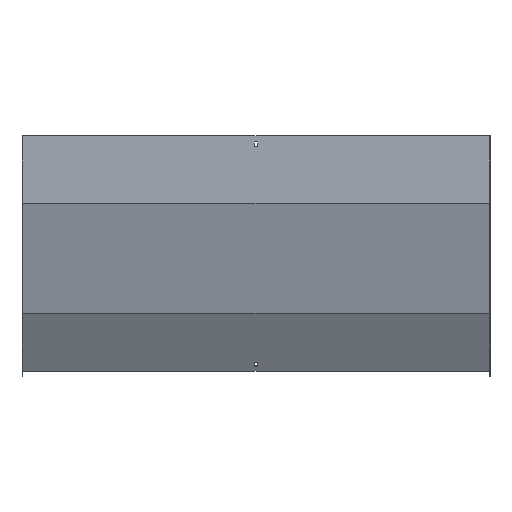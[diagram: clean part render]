
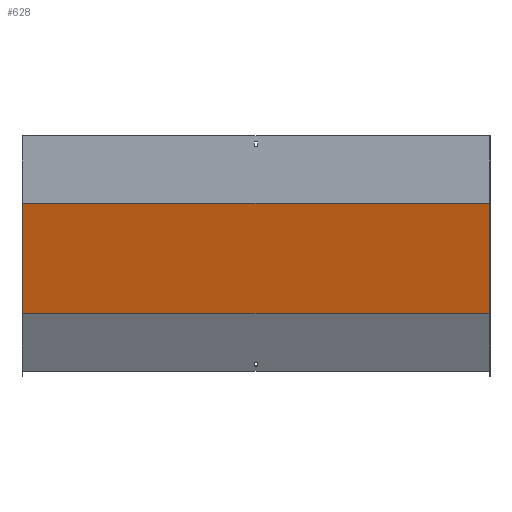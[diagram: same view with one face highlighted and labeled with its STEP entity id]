
A CAD part, front view. The second image highlights one B-rep face of the part: STEP entity #628.
In plain terms, the highlighted planar face has unit normal (0, -0.966, -0.259).
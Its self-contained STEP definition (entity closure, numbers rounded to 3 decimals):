
#6 = DIRECTION ( 'NONE',  ( 0., 0.259, -0.966 ) ) ;
#7 = ORIENTED_EDGE ( 'NONE', *, *, #262, .T. ) ;
#72 = VERTEX_POINT ( 'NONE', #381 ) ;
#84 = DIRECTION ( 'NONE',  ( -1., 0., 0. ) ) ;
#96 = AXIS2_PLACEMENT_3D ( 'NONE', #617, #103, #297 ) ;
#103 = DIRECTION ( 'NONE',  ( 0., 0.966, 0.259 ) ) ;
#158 = EDGE_CURVE ( 'NONE', #685, #424, #491, .T. ) ;
#163 = ORIENTED_EDGE ( 'NONE', *, *, #552, .F. ) ;
#169 = ORIENTED_EDGE ( 'NONE', *, *, #158, .T. ) ;
#218 = CARTESIAN_POINT ( 'NONE',  ( 450., 55.284, -342.117 ) ) ;
#251 = VECTOR ( 'NONE', #439, 1000. ) ;
#262 = EDGE_CURVE ( 'NONE', #424, #72, #461, .T. ) ;
#291 = CARTESIAN_POINT ( 'NONE',  ( 450., -1.5, -130.197 ) ) ;
#297 = DIRECTION ( 'NONE',  ( 0., -0.259, 0.966 ) ) ;
#355 = PLANE ( 'NONE',  #96 ) ;
#381 = CARTESIAN_POINT ( 'NONE',  ( -450., 55.284, -342.117 ) ) ;
#424 = VERTEX_POINT ( 'NONE', #814 ) ;
#439 = DIRECTION ( 'NONE',  ( -1., 0., 0. ) ) ;
#443 = VERTEX_POINT ( 'NONE', #218 ) ;
#458 = VECTOR ( 'NONE', #84, 1000. ) ;
#461 = LINE ( 'NONE', #652, #528 ) ;
#476 = VECTOR ( 'NONE', #6, 1000. ) ;
#485 = FACE_OUTER_BOUND ( 'NONE', #732, .T. ) ;
#491 = LINE ( 'NONE', #757, #251 ) ;
#528 = VECTOR ( 'NONE', #532, 1000. ) ;
#532 = DIRECTION ( 'NONE',  ( 0., 0.259, -0.966 ) ) ;
#552 = EDGE_CURVE ( 'NONE', #443, #72, #673, .T. ) ;
#609 = CARTESIAN_POINT ( 'NONE',  ( 451.5, 55.284, -342.117 ) ) ;
#617 = CARTESIAN_POINT ( 'NONE',  ( 451.5, -1.449, -130.388 ) ) ;
#628 = ADVANCED_FACE ( 'NONE', ( #485 ), #355, .F. ) ;
#639 = LINE ( 'NONE', #720, #476 ) ;
#652 = CARTESIAN_POINT ( 'NONE',  ( -450., -33.949, -9.097 ) ) ;
#673 = LINE ( 'NONE', #609, #458 ) ;
#685 = VERTEX_POINT ( 'NONE', #291 ) ;
#694 = EDGE_CURVE ( 'NONE', #685, #443, #639, .T. ) ;
#720 = CARTESIAN_POINT ( 'NONE',  ( 450., -33.949, -9.097 ) ) ;
#732 = EDGE_LOOP ( 'NONE', ( #7, #163, #779, #169 ) ) ;
#757 = CARTESIAN_POINT ( 'NONE',  ( 451.5, -1.5, -130.197 ) ) ;
#779 = ORIENTED_EDGE ( 'NONE', *, *, #694, .F. ) ;
#814 = CARTESIAN_POINT ( 'NONE',  ( -450., -1.5, -130.197 ) ) ;
